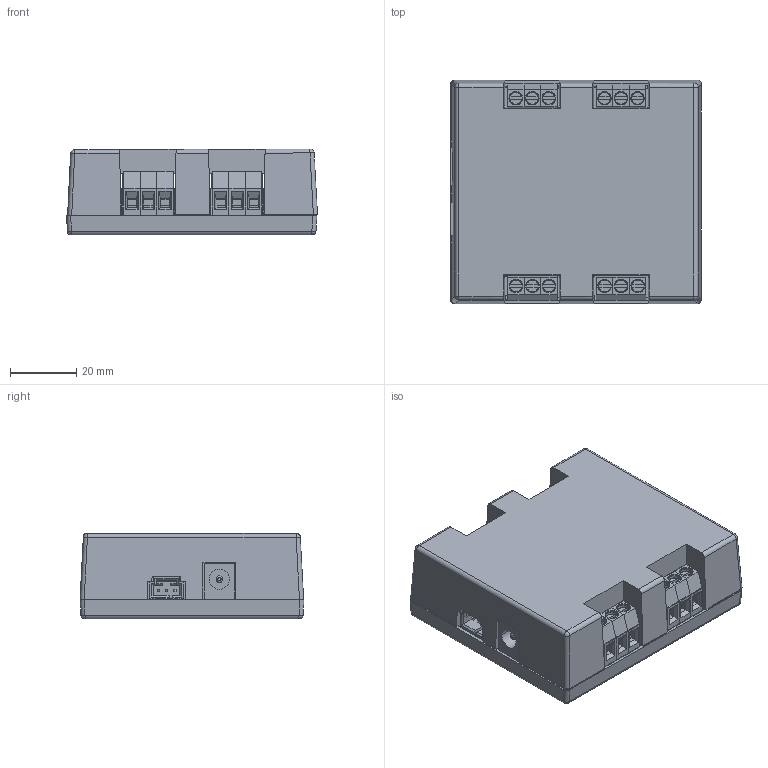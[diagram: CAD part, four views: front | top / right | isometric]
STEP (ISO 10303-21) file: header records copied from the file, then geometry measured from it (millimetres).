
FILE_DESCRIPTION(/* description */ ('Alibre Inc.'),/* implementation_level */ '2;1');
FILE_NAME(/* name */ 'export0',/* time_stamp */ '2018-08-09T11:51:21-06:00',/* author */ (''),/* organization */ (''),/* preprocessor_version */ 'ST-DEVELOPER v17',/* originating_system */ 'Alibre',/* authorisation */ '');
FILE_SCHEMA (('CONFIG_CONTROL_DESIGN'));
Length unit declared in the file: millimetre
Products named in the file (116): ID_1; ID_2; ID_3; ID_4; ID_5; ID_6; ID_7; ID_8; ID_9; ID_10; ID_11; ID_12; ID_13; ID_14; ID_15; ID_16; ID_17; ID_18; ID_19; ID_20; ID_21; ID_22; ID_23; ID_24; ID_25; ID_26; ID_27; ID_28; ID_29; ID_30; ID_31; ID_32; ID_33; ID_34; ID_35; ID_36; ID_37; ID_38; ID_39; ID_40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
Bounding box: 75.9 x 67.7 x 25.98 mm (x, y, z)
Volume: 64031.1 mm3; surface area: 64077.1 mm2
Topology: 96 solids, 96 shells, 3435 faces, 9076 edges, 5929 vertices
Faces by surface type: plane 2532, cylinder 580, bspline 198, torus 74, cone 43, sphere 8
Full cylindrical faces by diameter (mm): 0.6 x1, 0.965 x3, 1 x4, 1.067 x4, 1.3 x20, 1.6 x15, 3.124 x4, 3.175 x4
Entity records: 79937 total; most frequent: CARTESIAN_POINT 16613, ORIENTED_EDGE 11386, DIRECTION 8470, EDGE_CURVE 5693, VECTOR 4326, LINE 4326, VERTEX_POINT 3749, AXIS2_PLACEMENT_3D 2787
